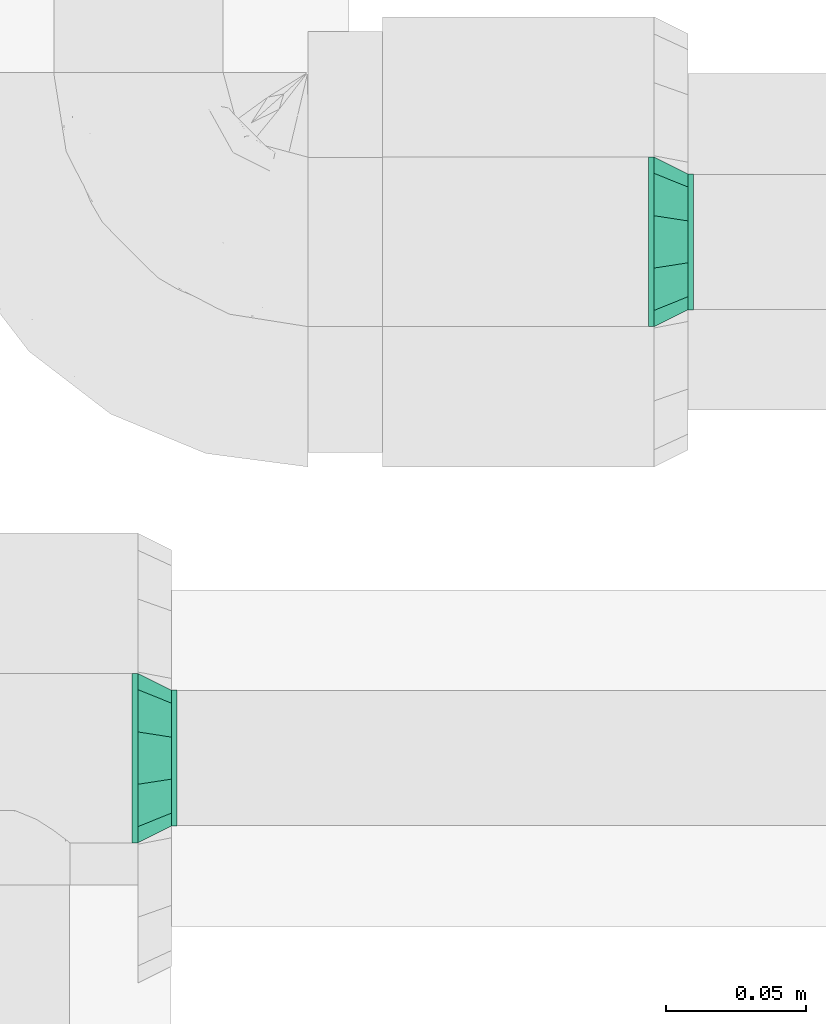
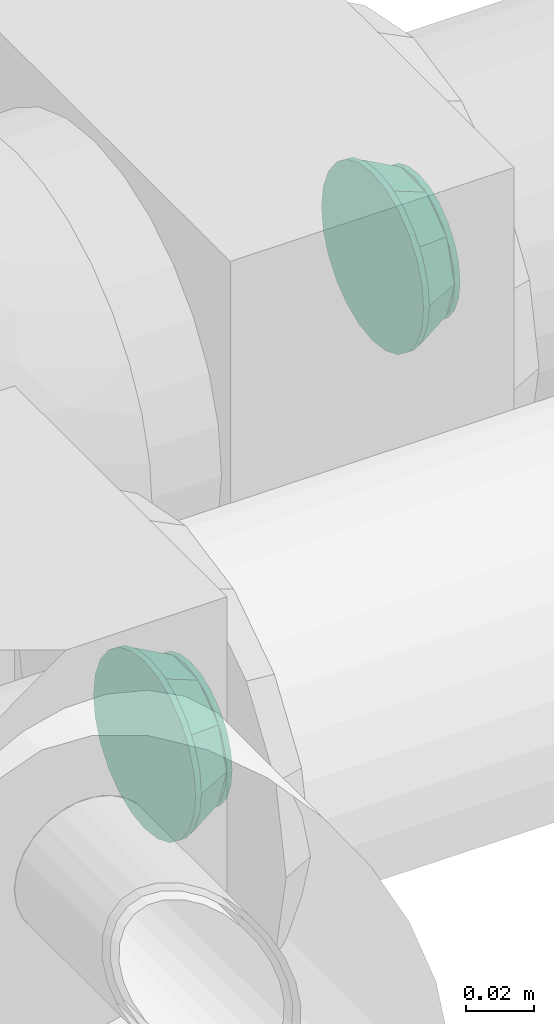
# One storey, part 83 of 83: 2 flow fittings.
"""IFC2X3 building model written with IfcOpenShell, lengths in millimetres."""

from ifc_helpers import new_model, entity, si_unit, converted_unit, derived_unit, direction, frame, origin_with_axes, place, context, subcontext, project, spatial, open_shell, surface_model, source, transform, mapped, type_object, element, save


model = new_model("IFC2X3")

# Units and contexts
model_context = context("Model", 3, precision=0.01, world=frame((0.0, 4.29681676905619e-09, 0.0)), true_north=direction((4.01073788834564e-13, 1.0)))
plan_context = context("Plan", 3, precision=0.01, world=frame((0.0, 4.29681676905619e-09, 0.0)), true_north=direction((4.01073788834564e-13, 1.0)))
body_context = subcontext(model_context, "Body", "Model", "MODEL_VIEW")
ifc_project = project(units=[converted_unit("PLANEANGLEUNIT", "DEGREE", entity("IfcPositiveLengthMeasure", 0.0174532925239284), si_unit("PLANEANGLEUNIT", "RADIAN"), dimensions=[0, 0, 0, 0, 0, 0, 0]), si_unit("AREAUNIT", "SQUARE_METRE"), si_unit("LENGTHUNIT", "METRE", prefix="MILLI"), si_unit("MASSUNIT", "GRAM", prefix="KILO"), si_unit("POWERUNIT", "WATT"), si_unit("PRESSUREUNIT", "PASCAL"), si_unit("FORCEUNIT", "NEWTON", prefix="KILO"), si_unit("ELECTRICVOLTAGEUNIT", "VOLT"), si_unit("ELECTRICCURRENTUNIT", "AMPERE"), si_unit("THERMODYNAMICTEMPERATUREUNIT", "DEGREE_CELSIUS"), si_unit("TIMEUNIT", "SECOND"), si_unit("VOLUMEUNIT", "CUBIC_METRE"), derived_unit("LINEARVELOCITYUNIT", [(si_unit("LENGTHUNIT", "METRE"), 1), (si_unit("TIMEUNIT", "SECOND"), -1)]), derived_unit("VOLUMETRICFLOWRATEUNIT", [(si_unit("VOLUMEUNIT", "CUBIC_METRE"), 1), (si_unit("TIMEUNIT", "SECOND"), -1)]), derived_unit("THERMALTRANSMITTANCEUNIT", [(si_unit("POWERUNIT", "WATT"), 1), (si_unit("THERMODYNAMICTEMPERATUREUNIT", "KELVIN"), -1), (si_unit("AREAUNIT", "SQUARE_METRE"), -1)]), derived_unit("SOUNDPRESSUREUNIT", [(si_unit("PRESSUREUNIT", "PASCAL"), 1)])], contexts=[model_context, plan_context])

# Site, building, storey
site_placement = place(None, frame((0.0, -4.29681676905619e-09, 0.0), z_axis=(0.0, 0.0, 1.0), x_axis=(1.0, 0.0, 0.0)))
site = spatial("IfcSite", under=ifc_project, at=site_placement, Name="ENGM", CompositionType="ELEMENT")
building_placement = place(site_placement, frame((0.0, 4.29681676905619e-09, 0.0), z_axis=(0.0, 0.0, 1.0), x_axis=(1.0, 0.0, 0.0)))
building = spatial("IfcBuilding", under=site, at=building_placement, Name="TI", CompositionType="ELEMENT")
storey_placement = place(building_placement, frame((0.0, 0.0, 204000.0), z_axis=(0.0, 0.0, 1.0), x_axis=(1.0, 0.0, 0.0)))
storey = spatial("IfcBuildingStorey", under=building, at=storey_placement, Name="Nivå D", CompositionType="ELEMENT", Elevation=204000.0)

# Flow fittings
pipe_fitting_type = type_object("IfcPipeFittingType", Name="magi_pipe_fe_reducer_centric_short_NOR", PredefinedType="TRANSITION")
shared_shape_1 = source(origin_with_axes(), body_context, "Body", "SurfaceModel", [
    surface_model("IfcShellBasedSurfaceModel", [(14.0, -6.26342, -23.37541), (14.0, 0.0, -24.2), (14.0, 6.26342, -23.37541), (12.0, -19.57821, 14.2244), (12.0, -7.47821, -23.01557), (12.0, 24.2, 0.0), (12.0, 7.47821, -23.01557), (12.0, -24.2, 0.0), (12.0, -19.57821, -14.2244), (12.0, 19.57821, -14.2244), (0.0, 24.43231, 17.75111), (0.0, 9.33231, -28.72191), (0.0, -30.2, 0.0), (0.0, -9.33231, -28.72191), (0.0, -24.43231, -17.75111), (14.0, 12.1, -20.95781), (14.0, -24.2, 0.0), (14.0, 23.37541, -6.26342), (14.0, 17.11198, -17.11198), (14.0, 20.95781, -12.1), (14.0, -17.11198, -17.11198), (14.0, -12.1, -20.95781), (14.0, -23.37541, -6.26342), (14.0, -20.95781, -12.1), (14.0, 24.2, 0.0), (14.0, 23.37541, 6.26342), (14.0, 20.95781, 12.1), (14.0, 17.11198, 17.11198), (14.0, 12.1, 20.95781), (14.0, 6.26342, 23.37541), (14.0, 0.0, 24.2), (14.0, -23.37541, 6.26342), (14.0, -17.11198, 17.11198), (14.0, -20.95781, 12.1), (14.0, -6.26342, 23.37541), (14.0, -12.1, 20.95781), (12.0, 0.0, 24.2), (12.0, 6.26342, 23.37541), (12.0, 12.1, 20.95781), (12.0, 17.11198, 17.11198), (12.0, 20.95781, 12.1), (12.0, 23.37541, 6.26342), (12.0, -23.37541, 6.26342), (12.0, -17.11198, -17.11198), (12.0, -6.26342, 23.37541), (12.0, -17.11198, 17.11198), (12.0, -12.1, 20.95781), (12.0, -20.95781, 12.1), (12.0, 17.11198, -17.11198), (12.0, 23.37541, -6.26342), (12.0, 20.95781, -12.1), (12.0, 12.1, -20.95781), (12.0, 6.26342, -23.37541), (12.0, -23.37541, -6.26342), (12.0, -20.95781, -12.1), (12.0, -6.26342, -23.37541), (12.0, -12.1, -20.95781), (12.0, 0.0, -24.2), (-2.0, 0.0, 30.2), (-2.0, 7.81634, 29.17096), (-2.0, 15.1, 26.15397), (-2.0, 21.35462, 21.35462), (-2.0, 26.15397, 15.1), (-2.0, 29.17096, 7.81634), (-2.0, -29.17096, 7.81634), (-2.0, 30.2, 0.0), (-2.0, -7.81634, 29.17096), (-2.0, -21.35462, 21.35462), (-2.0, -15.1, 26.15397), (-2.0, -26.15397, 15.1), (-2.0, -30.2, 0.0), (-2.0, 29.17096, -7.81634), (-2.0, 26.15397, -15.1), (-2.0, 21.35462, -21.35462), (-2.0, 15.1, -26.15397), (-2.0, 7.81634, -29.17096), (-2.0, -15.1, -26.15397), (-2.0, -29.17096, -7.81634), (-2.0, -21.35462, -21.35462), (-2.0, -26.15397, -15.1), (-2.0, 0.0, -30.2), (-2.0, -7.81634, -29.17096), (0.0, 7.81634, -29.17096), (0.0, 15.1, -26.15397), (0.0, 21.35462, -21.35462), (0.0, 30.2, 0.0), (0.0, 26.15397, -15.1), (0.0, 29.17096, -7.81634), (0.0, -15.1, -26.15397), (0.0, -29.17096, 7.81634), (0.0, 0.0, -30.2), (0.0, -7.81634, -29.17096), (0.0, -21.35462, -21.35462), (0.0, -29.17096, -7.81634), (0.0, -26.15397, -15.1), (0.0, 29.17096, 7.81634), (0.0, 26.15397, 15.1), (0.0, 21.35462, 21.35462), (0.0, -21.35462, 21.35462), (0.0, 15.1, 26.15397), (0.0, 7.81634, 29.17096), (0.0, 0.0, 30.2), (0.0, -26.15397, 15.1), (0.0, -7.81634, 29.17096), (0.0, -15.1, 26.15397), (12.0, -7.47821, 23.01557), (12.0, 19.57821, 14.2244), (12.0, 7.47821, 23.01557), (0.0, 9.33231, 28.72191), (0.0, -9.33231, 28.72191), (0.0, -24.43231, 17.75111), (0.0, 24.43231, -17.75111), (12.0, 13.52821, -18.61999), (0.0, 16.88231, -23.23651), (0.0, 27.31616, -8.87556), (12.0, 21.8891, -7.1122), (0.0, -27.48172, -8.36602), (12.0, 0.0, -23.01557), (0.0, 0.0, -28.72191), (12.0, -21.8891, -7.1122), (0.0, -16.88231, -23.23651), (12.0, -13.52821, -18.61999), (12.0, -13.52821, 18.61999), (0.0, -16.88231, 23.23651), (0.0, -27.31616, 8.87556), (12.0, -21.8891, 7.1122), (0.0, 27.48172, 8.36602), (12.0, 0.0, 23.01557), (0.0, 0.0, 28.72191), (12.0, 21.8891, 7.1122), (0.0, 16.88231, 23.23651), (12.0, 13.52821, 18.61999)], [open_shell([[[0, 1, 2]], [[3, 4, 5]], [[5, 4, 6]], [[7, 8, 3]], [[8, 4, 3]], [[6, 9, 5]], [[10, 11, 12]], [[12, 11, 13]], [[12, 13, 14]], [[15, 16, 2]], [[17, 15, 18]], [[15, 17, 16]], [[17, 18, 19]], [[16, 20, 2]], [[0, 20, 21]], [[20, 22, 23]], [[0, 2, 20]], [[20, 16, 22]], [[24, 16, 17]], [[25, 26, 27]], [[24, 27, 16]], [[28, 29, 30]], [[28, 30, 27]], [[16, 27, 30]], [[31, 32, 33]], [[34, 31, 16]], [[32, 34, 35]], [[34, 32, 31]], [[16, 30, 34]], [[27, 24, 25]], [[36, 37, 38]], [[36, 38, 39]], [[39, 40, 41]], [[36, 39, 42]], [[39, 43, 42]], [[44, 45, 46]], [[44, 36, 45]], [[45, 42, 47]], [[36, 42, 45]], [[42, 43, 7]], [[39, 41, 5]], [[48, 5, 49]], [[48, 49, 50]], [[51, 52, 5]], [[51, 5, 48]], [[52, 43, 39]], [[53, 43, 54]], [[7, 43, 53]], [[43, 55, 56]], [[43, 52, 55]], [[57, 55, 52]], [[39, 5, 52]], [[53, 22, 7]], [[54, 23, 53]], [[21, 43, 56]], [[54, 43, 20]], [[0, 56, 55]], [[53, 23, 22]], [[22, 16, 7]], [[0, 21, 56]], [[20, 43, 21]], [[20, 23, 54]], [[1, 0, 55]], [[55, 57, 1]], [[52, 2, 57]], [[51, 15, 52]], [[19, 48, 50]], [[51, 48, 18]], [[17, 50, 49]], [[51, 18, 15]], [[15, 2, 52]], [[24, 17, 49]], [[19, 50, 17]], [[19, 18, 48]], [[5, 24, 49]], [[57, 2, 1]], [[41, 25, 5]], [[40, 26, 41]], [[28, 39, 38]], [[40, 39, 27]], [[29, 38, 37]], [[41, 26, 25]], [[25, 24, 5]], [[29, 28, 38]], [[27, 39, 28]], [[27, 26, 40]], [[30, 29, 37]], [[37, 36, 30]], [[44, 34, 36]], [[46, 35, 44]], [[33, 45, 47]], [[46, 45, 32]], [[31, 47, 42]], [[46, 32, 35]], [[35, 34, 44]], [[16, 31, 42]], [[33, 47, 31]], [[33, 32, 45]], [[7, 16, 42]], [[36, 34, 30]], [[58, 59, 60]], [[58, 60, 61]], [[61, 62, 63]], [[58, 61, 64]], [[65, 64, 61]], [[66, 67, 68]], [[66, 58, 67]], [[67, 64, 69]], [[58, 64, 67]], [[64, 65, 70]], [[65, 61, 63]], [[65, 71, 72]], [[65, 72, 73]], [[73, 74, 75]], [[73, 75, 65]], [[75, 76, 70]], [[77, 78, 79]], [[78, 77, 76]], [[76, 80, 81]], [[77, 70, 76]], [[75, 80, 76]], [[70, 65, 75]], [[82, 83, 84]], [[82, 84, 85]], [[86, 87, 85]], [[86, 85, 84]], [[88, 82, 89]], [[90, 88, 91]], [[90, 82, 88]], [[92, 93, 94]], [[93, 92, 88]], [[88, 89, 93]], [[89, 82, 85]], [[95, 96, 97]], [[85, 97, 98]], [[99, 100, 101]], [[98, 97, 99]], [[98, 99, 101]], [[89, 98, 102]], [[12, 93, 89]], [[98, 103, 104]], [[89, 85, 98]], [[103, 98, 101]], [[95, 97, 85]], [[77, 93, 70]], [[79, 94, 77]], [[88, 78, 76]], [[79, 78, 92]], [[91, 76, 81]], [[77, 94, 93]], [[93, 12, 70]], [[91, 88, 76]], [[92, 78, 88]], [[92, 94, 79]], [[90, 91, 81]], [[81, 80, 90]], [[75, 82, 80]], [[74, 83, 75]], [[86, 73, 72]], [[74, 73, 84]], [[87, 72, 71]], [[74, 84, 83]], [[83, 82, 75]], [[85, 87, 71]], [[86, 72, 87]], [[86, 84, 73]], [[65, 85, 71]], [[80, 82, 90]], [[63, 95, 65]], [[62, 96, 63]], [[99, 61, 60]], [[62, 61, 97]], [[100, 60, 59]], [[63, 96, 95]], [[95, 85, 65]], [[100, 99, 60]], [[97, 61, 99]], [[97, 96, 62]], [[101, 100, 59]], [[59, 58, 101]], [[66, 103, 58]], [[68, 104, 66]], [[102, 67, 69]], [[68, 67, 98]], [[89, 69, 64]], [[68, 98, 104]], [[104, 103, 66]], [[12, 89, 64]], [[102, 69, 89]], [[102, 98, 67]], [[70, 12, 64]], [[58, 103, 101]], [[105, 3, 106]], [[105, 106, 107]], [[106, 3, 5]], [[108, 10, 12]], [[109, 12, 110]], [[12, 109, 108]], [[11, 10, 111]], [[111, 10, 85]], [[111, 9, 112]], [[6, 113, 112]], [[113, 6, 11]], [[114, 115, 9]], [[5, 115, 85]], [[113, 111, 112]], [[7, 12, 116]], [[11, 117, 118]], [[118, 117, 4]], [[4, 13, 118]], [[9, 111, 114]], [[85, 115, 114]], [[116, 119, 7]], [[120, 121, 8]], [[4, 121, 13]], [[14, 8, 119]], [[13, 121, 120]], [[8, 14, 120]], [[6, 117, 11]], [[14, 119, 116]], [[110, 3, 122]], [[105, 123, 122]], [[123, 105, 109]], [[124, 125, 3]], [[7, 125, 12]], [[123, 110, 122]], [[5, 85, 126]], [[109, 127, 128]], [[128, 127, 107]], [[107, 108, 128]], [[3, 110, 124]], [[12, 125, 124]], [[126, 129, 5]], [[130, 131, 106]], [[107, 131, 108]], [[10, 106, 129]], [[108, 131, 130]], [[106, 10, 130]], [[105, 127, 109]], [[10, 129, 126]]])]),
])
flow_fitting_1_placement = place(storey_placement, frame((608617.17351, 697908.0, 5915.24411), z_axis=(0.0, 0.0, 1.0), x_axis=(1.0, 0.0, 0.0)))
element("IfcFlowFitting", 1, at=flow_fitting_1_placement, inside=storey, type_object=pipe_fitting_type, Name="magi_pipe_fe_reducer_centric_short_NOR", context=body_context, shape_type="MappedRepresentation", body=[
    mapped(shared_shape_1, transform((0.0, 0.0, 0.0), scale=1.0)),
])
shared_shape_2 = source(origin_with_axes(), body_context, "Body", "SurfaceModel", [
    surface_model("IfcShellBasedSurfaceModel", [(14.0, -6.26342, -23.37541), (14.0, 24.2, 0.0), (14.0, -12.1, -20.95781), (14.0, -17.11198, -17.11198), (14.0, -23.37541, -6.26342), (14.0, -17.11198, 17.11198), (14.0, -20.95781, -12.1), (14.0, 17.11198, -17.11198), (14.0, 12.1, -20.95781), (14.0, 6.26342, -23.37541), (14.0, 0.0, -24.2), (14.0, 20.95781, -12.1), (14.0, 23.37541, -6.26342), (14.0, -24.2, 0.0), (14.0, -20.95781, 12.1), (14.0, -23.37541, 6.26342), (14.0, 23.37541, 6.26342), (14.0, 0.0, 24.2), (14.0, -6.26342, 23.37541), (14.0, -12.1, 20.95781), (14.0, 17.11198, 17.11198), (14.0, 20.95781, 12.1), (14.0, 12.1, 20.95781), (14.0, 6.26342, 23.37541), (12.0, -12.1, 20.95781), (12.0, -6.26342, 23.37541), (12.0, 0.0, 24.2), (12.0, -17.11198, 17.11198), (12.0, -23.37541, 6.26342), (12.0, -20.95781, 12.1), (12.0, 6.26342, 23.37541), (12.0, 24.2, 0.0), (12.0, -6.26342, -23.37541), (12.0, 12.1, 20.95781), (12.0, 17.11198, 17.11198), (12.0, 23.37541, 6.26342), (12.0, 20.95781, 12.1), (12.0, -24.2, 0.0), (12.0, -12.1, -20.95781), (12.0, -23.37541, -6.26342), (12.0, -20.95781, -12.1), (12.0, -17.11198, -17.11198), (12.0, 17.11198, -17.11198), (12.0, 20.95781, -12.1), (12.0, 23.37541, -6.26342), (12.0, 12.1, -20.95781), (12.0, 6.26342, -23.37541), (12.0, 0.0, -24.2), (-2.0, -15.1, 26.15397), (-2.0, -7.81634, 29.17096), (-2.0, 0.0, 30.2), (-2.0, -21.35462, 21.35462), (-2.0, -29.17096, 7.81634), (-2.0, -26.15397, 15.1), (-2.0, 15.1, -26.15397), (-2.0, 29.17096, 7.81634), (-2.0, 15.1, 26.15397), (-2.0, 21.35462, 21.35462), (-2.0, 7.81634, 29.17096), (-2.0, 26.15397, 15.1), (-2.0, 30.2, 0.0), (-2.0, 29.17096, -7.81634), (-2.0, -30.2, 0.0), (-2.0, -26.15397, -15.1), (-2.0, -29.17096, -7.81634), (-2.0, -21.35462, -21.35462), (-2.0, -7.81634, -29.17096), (-2.0, -15.1, -26.15397), (-2.0, 26.15397, -15.1), (-2.0, 21.35462, -21.35462), (-2.0, 7.81634, -29.17096), (-2.0, 0.0, -30.2), (0.0, -21.35462, -21.35462), (0.0, -15.1, -26.15397), (0.0, -7.81634, -29.17096), (0.0, -26.15397, -15.1), (0.0, -30.2, 0.0), (0.0, -29.17096, -7.81634), (0.0, 15.1, -26.15397), (0.0, 29.17096, -7.81634), (0.0, 7.81634, -29.17096), (0.0, 0.0, -30.2), (0.0, 26.15397, -15.1), (0.0, 21.35462, -21.35462), (0.0, -29.17096, 7.81634), (0.0, -21.35462, 21.35462), (0.0, -26.15397, 15.1), (0.0, 21.35462, 21.35462), (0.0, 0.0, 30.2), (0.0, -7.81634, 29.17096), (0.0, -15.1, 26.15397), (0.0, 26.15397, 15.1), (0.0, 29.17096, 7.81634), (0.0, 30.2, 0.0), (0.0, 15.1, 26.15397), (0.0, 7.81634, 29.17096), (12.0, -19.57821, 14.2244), (12.0, 19.57821, 14.2244), (12.0, 7.47821, 23.01557), (12.0, -7.47821, 23.01557), (12.0, -7.47821, -23.01557), (12.0, 7.47821, -23.01557), (12.0, -19.57821, -14.2244), (12.0, 19.57821, -14.2244), (0.0, 24.43231, 17.75111), (0.0, -24.43231, 17.75111), (0.0, 9.33231, 28.72191), (0.0, -9.33231, 28.72191), (0.0, 9.33231, -28.72191), (0.0, -9.33231, -28.72191), (0.0, 24.43231, -17.75111), (0.0, -24.43231, -17.75111), (12.0, -13.52821, -18.61999), (0.0, -16.88231, -23.23651), (12.0, -21.8891, -7.1122), (0.0, -27.31616, -8.87556), (0.0, 27.48172, -8.36602), (0.0, 0.0, -28.72191), (12.0, 0.0, -23.01557), (12.0, 21.8891, -7.1122), (12.0, 13.52821, -18.61999), (0.0, 16.88231, -23.23651), (12.0, 13.52821, 18.61999), (0.0, 16.88231, 23.23651), (12.0, 21.8891, 7.1122), (0.0, 27.31616, 8.87556), (0.0, -27.48172, 8.36602), (0.0, 0.0, 28.72191), (12.0, 0.0, 23.01557), (12.0, -21.8891, 7.1122), (12.0, -13.52821, 18.61999), (0.0, -16.88231, 23.23651)], [open_shell([[[0, 1, 2]], [[3, 2, 4]], [[4, 2, 5]], [[6, 3, 4]], [[1, 0, 7]], [[8, 7, 9]], [[0, 10, 9]], [[11, 12, 7]], [[7, 0, 9]], [[12, 1, 7]], [[4, 5, 13]], [[5, 14, 15]], [[16, 5, 2]], [[17, 18, 19]], [[5, 17, 19]], [[17, 5, 20]], [[21, 20, 16]], [[16, 2, 1]], [[22, 23, 20]], [[5, 16, 20]], [[17, 20, 23]], [[5, 15, 13]], [[24, 25, 26]], [[27, 24, 26]], [[28, 29, 27]], [[30, 27, 26]], [[27, 31, 32]], [[33, 34, 30]], [[35, 30, 34]], [[36, 35, 34]], [[31, 30, 35]], [[31, 27, 30]], [[37, 28, 27]], [[38, 39, 27]], [[40, 39, 41]], [[38, 27, 32]], [[41, 39, 38]], [[32, 31, 42]], [[43, 42, 44]], [[44, 42, 31]], [[45, 46, 42]], [[46, 32, 42]], [[32, 46, 47]], [[27, 39, 37]], [[31, 12, 44]], [[44, 11, 43]], [[45, 42, 8]], [[7, 42, 43]], [[46, 45, 9]], [[12, 11, 44]], [[31, 1, 12]], [[45, 8, 9]], [[8, 42, 7]], [[43, 11, 7]], [[46, 9, 10]], [[10, 47, 46]], [[47, 0, 32]], [[32, 2, 38]], [[40, 41, 6]], [[3, 41, 38]], [[39, 40, 4]], [[2, 3, 38]], [[32, 0, 2]], [[39, 4, 13]], [[4, 40, 6]], [[41, 3, 6]], [[39, 13, 37]], [[10, 0, 47]], [[37, 15, 28]], [[28, 14, 29]], [[24, 27, 19]], [[5, 27, 29]], [[25, 24, 18]], [[15, 14, 28]], [[37, 13, 15]], [[24, 19, 18]], [[19, 27, 5]], [[29, 14, 5]], [[25, 18, 17]], [[17, 26, 25]], [[26, 23, 30]], [[30, 22, 33]], [[36, 34, 21]], [[20, 34, 33]], [[35, 36, 16]], [[22, 20, 33]], [[30, 23, 22]], [[35, 16, 1]], [[16, 36, 21]], [[34, 20, 21]], [[35, 1, 31]], [[17, 23, 26]], [[48, 49, 50]], [[51, 48, 50]], [[52, 53, 51]], [[54, 50, 55]], [[50, 54, 51]], [[56, 57, 58]], [[57, 50, 58]], [[59, 55, 57]], [[57, 55, 50]], [[60, 61, 55]], [[52, 51, 62]], [[63, 64, 62]], [[65, 63, 62]], [[66, 67, 65]], [[62, 66, 65]], [[51, 54, 66]], [[68, 69, 61]], [[54, 61, 69]], [[70, 71, 54]], [[54, 55, 61]], [[54, 71, 66]], [[66, 62, 51]], [[72, 73, 74]], [[75, 72, 74]], [[76, 77, 75]], [[78, 75, 74]], [[76, 75, 79]], [[80, 78, 81]], [[78, 74, 81]], [[82, 79, 83]], [[78, 83, 79]], [[78, 79, 75]], [[79, 84, 76]], [[85, 86, 84]], [[85, 84, 87]], [[88, 89, 90]], [[90, 85, 87]], [[88, 90, 87]], [[91, 87, 92]], [[92, 79, 93]], [[94, 95, 87]], [[84, 92, 87]], [[88, 87, 95]], [[84, 79, 92]], [[60, 79, 61]], [[61, 82, 68]], [[54, 69, 78]], [[83, 69, 68]], [[70, 54, 80]], [[79, 82, 61]], [[60, 93, 79]], [[54, 78, 80]], [[78, 69, 83]], [[68, 82, 83]], [[70, 80, 81]], [[81, 71, 70]], [[71, 74, 66]], [[66, 73, 67]], [[63, 65, 75]], [[72, 65, 67]], [[64, 63, 77]], [[73, 72, 67]], [[66, 74, 73]], [[64, 77, 76]], [[77, 63, 75]], [[65, 72, 75]], [[64, 76, 62]], [[81, 74, 71]], [[62, 84, 52]], [[52, 86, 53]], [[48, 51, 90]], [[85, 51, 53]], [[49, 48, 89]], [[84, 86, 52]], [[62, 76, 84]], [[48, 90, 89]], [[90, 51, 85]], [[53, 86, 85]], [[49, 89, 88]], [[88, 50, 49]], [[50, 95, 58]], [[58, 94, 56]], [[59, 57, 91]], [[87, 57, 56]], [[55, 59, 92]], [[94, 87, 56]], [[58, 95, 94]], [[55, 92, 93]], [[92, 59, 91]], [[57, 87, 91]], [[55, 93, 60]], [[88, 95, 50]], [[96, 31, 97]], [[96, 98, 99]], [[97, 98, 96]], [[96, 100, 31]], [[31, 100, 101]], [[37, 102, 96]], [[102, 100, 96]], [[101, 103, 31]], [[104, 76, 105]], [[106, 104, 107]], [[105, 107, 104]], [[104, 108, 76]], [[76, 108, 109]], [[104, 93, 110]], [[110, 108, 104]], [[76, 109, 111]], [[112, 102, 111]], [[112, 113, 100]], [[109, 100, 113]], [[102, 114, 115]], [[76, 114, 37]], [[112, 111, 113]], [[116, 93, 31]], [[117, 118, 109]], [[101, 118, 117]], [[117, 108, 101]], [[115, 111, 102]], [[115, 114, 76]], [[31, 119, 116]], [[103, 120, 121]], [[108, 120, 101]], [[119, 103, 110]], [[121, 120, 108]], [[121, 110, 103]], [[109, 118, 100]], [[116, 119, 110]], [[122, 97, 104]], [[122, 123, 98]], [[106, 98, 123]], [[97, 124, 125]], [[93, 124, 31]], [[122, 104, 123]], [[126, 76, 37]], [[127, 128, 106]], [[99, 128, 127]], [[127, 107, 99]], [[125, 104, 97]], [[125, 124, 93]], [[37, 129, 126]], [[96, 130, 131]], [[107, 130, 99]], [[129, 96, 105]], [[131, 130, 107]], [[131, 105, 96]], [[106, 128, 98]], [[126, 129, 105]]])]),
])
flow_fitting_2_placement = place(storey_placement, frame((608801.17351, 698092.0, 5915.24411), z_axis=(0.0, 0.0, 1.0), x_axis=(1.0, 0.0, 0.0)))
element("IfcFlowFitting", 2, at=flow_fitting_2_placement, inside=storey, type_object=pipe_fitting_type, Name="magi_pipe_fe_reducer_centric_short_NOR", context=body_context, shape_type="MappedRepresentation", body=[
    mapped(shared_shape_2, transform((0.0, 0.0, 0.0), scale=1.0)),
])

save(model, "model.ifc")
